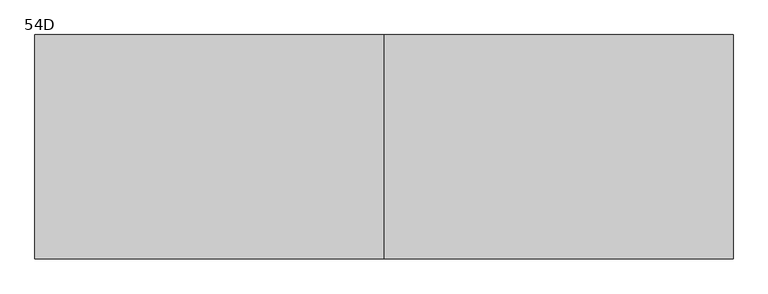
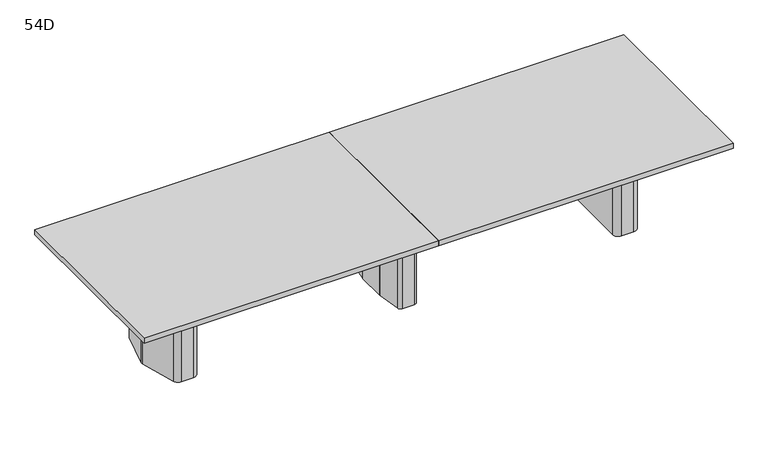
"""IFC4 building model written with IfcOpenShell, lengths in millimetres: furniture geometry, Coalesse_AM_Table_Conference_ETable2_Rectangular_14ft_ThreeBase : 54D."""

import ifcopenshell
import ifcopenshell.guid

model = None  # the IFC model being written
_history = None  # IfcOwnerHistory: only IFC2X3 demands one
_inside = {}  # id of a spatial element -> (the spatial element, [elements in it])
_under = {}  # id of a project, library or spatial element -> (it, [spatial elements below it])
_declared = {}  # id of a project -> (the project, [libraries it declares])
_typed = {}  # id of a type object -> (the type object, [elements of that type])
_made_of = {}  # id of a material, layer set ... -> (it, [elements and type objects made of it])


def new_model(schema):
    """Start an empty IFC model of exactly this schema.

    Asked for "IFC4X3", IfcOpenShell would pick the latest addendum, in which some entities
    have other attributes; the version numbers below select the first issue.
    IFC2X3 requires an IfcOwnerHistory on every rooted entity: one is made here for all.
    """
    global model, _history
    if schema == "IFC4X3":
        model = ifcopenshell.file(schema_version=(4, 3, 0, 0))
    else:
        model = ifcopenshell.file(schema=schema)
    _inside.clear()
    _under.clear()
    _declared.clear()
    _typed.clear()
    _made_of.clear()
    _history = None
    if model.schema == "IFC2X3":
        org = make("IfcOrganization", Name="unknown")
        user = make(
            "IfcPersonAndOrganization",
            ThePerson=make("IfcPerson", FamilyName="unknown"),
            TheOrganization=org,
        )
        app = make(
            "IfcApplication",
            ApplicationDeveloper=org,
            Version="unknown",
            ApplicationFullName="unknown",
            ApplicationIdentifier="unknown",
        )
        _history = make(
            "IfcOwnerHistory",
            OwningUser=user,
            OwningApplication=app,
            ChangeAction="ADDED",
            CreationDate=0,
        )
    return model


def make(cls, **values):
    """One entity of the class cls with the attributes given. An attribute that is None is left unset."""
    return model.create_entity(
        cls, **{name: value for name, value in values.items() if value is not None}
    )


def rooted(cls, **values):
    """An entity with a GlobalId (a new one), such as an element, a storey or a relation."""
    return make(cls, GlobalId=ifcopenshell.guid.new(), OwnerHistory=_history, **values)


def si_unit(unit_type, name, prefix=None):
    """IfcSIUnit, for example si_unit("LENGTHUNIT", "METRE", prefix="MILLI")."""
    return make("IfcSIUnit", UnitType=unit_type, Prefix=prefix, Name=name)


def assignment(units):
    """IfcUnitAssignment: the units of a project."""
    return None if units is None else make("IfcUnitAssignment", Units=units)


def point(xyz):
    """IfcCartesianPoint."""
    return None if xyz is None else make("IfcCartesianPoint", Coordinates=xyz)


def direction(xyz):
    """IfcDirection."""
    return None if xyz is None else make("IfcDirection", DirectionRatios=xyz)


def frame(location, z_axis=None, x_axis=None):
    """IfcAxis2Placement3D, a coordinate frame: its origin and axes. An axis left out is left unset."""
    return make(
        "IfcAxis2Placement3D",
        Location=point(location),
        Axis=direction(z_axis),
        RefDirection=direction(x_axis),
    )


def origin():
    """The frame at (0, 0, 0) with its axes left unset."""
    return frame((0.0, 0.0, 0.0))


def place(relative_to, where):
    """IfcLocalPlacement: puts the frame where relative to a parent placement (None: the world)."""
    return make(
        "IfcLocalPlacement", PlacementRelTo=relative_to, RelativePlacement=where
    )


def context(
    kind, dimensions, precision=None, world=None, true_north=None, identifier=None
):
    """IfcGeometricRepresentationContext, for example the 3D "Model" context."""
    return make(
        "IfcGeometricRepresentationContext",
        ContextIdentifier=identifier,
        ContextType=kind,
        CoordinateSpaceDimension=dimensions,
        Precision=precision,
        WorldCoordinateSystem=world,
        TrueNorth=true_north,
    )


def project(units=None, contexts=None):
    """IfcProject with its units and contexts."""
    return rooted(
        "IfcProject",
        Name="project",
        RepresentationContexts=contexts,
        UnitsInContext=assignment(units),
    )


def spatial(cls, under=None, at=None, **own):
    """A site, building, storey or space (cls), placed at a placement, below another one or the project."""
    s = rooted(cls, ObjectPlacement=at, **own)
    if under is not None:
        _under.setdefault(under.id(), (under, []))[1].append(s)
    return s


def polyline(points):
    """IfcPolyline through the points."""
    return make("IfcPolyline", Points=[point(p) for p in points])


def circle_curve(where, radius):
    """IfcCircle in the frame where."""
    return make("IfcCircle", Position=where, Radius=radius)


def outline(outer, holes=None, kind="AREA"):
    """IfcArbitraryClosedProfileDef: a profile drawn as a closed curve; with holes, ...WithVoids."""
    if holes is None:
        return make("IfcArbitraryClosedProfileDef", ProfileType=kind, OuterCurve=outer)
    return make(
        "IfcArbitraryProfileDefWithVoids",
        ProfileType=kind,
        OuterCurve=outer,
        InnerCurves=holes,
    )


def extrude(swept, where, along, depth):
    """IfcExtrudedAreaSolid: the profile swept, set in the frame where, extruded along a direction by depth."""
    return make(
        "IfcExtrudedAreaSolid",
        SweptArea=swept,
        Position=where,
        ExtrudedDirection=direction(along),
        Depth=depth,
    )


def shape(context_of_items, identifier, shape_type, items):
    """IfcShapeRepresentation: the items that make up one representation, for example the "Body"."""
    return make(
        "IfcShapeRepresentation",
        ContextOfItems=context_of_items,
        RepresentationIdentifier=identifier,
        RepresentationType=shape_type,
        Items=items,
    )


def source(mapping_origin, context_of_items, identifier, shape_type, items):
    """IfcRepresentationMap: a shape defined once, which mapped items show again and again."""
    return make(
        "IfcRepresentationMap",
        MappingOrigin=mapping_origin,
        MappedRepresentation=shape(context_of_items, identifier, shape_type, items),
    )


def transform(
    local_origin,
    x_axis=None,
    y_axis=None,
    z_axis=None,
    scale=None,
    scale2=None,
    scale3=None,
    uniform=True,
):
    """IfcCartesianTransformationOperator3D, or its non-uniform kind. x_axis, y_axis, z_axis: its Axis1, 2, 3."""
    if uniform:
        return make(
            "IfcCartesianTransformationOperator3D",
            Axis1=direction(x_axis),
            Axis2=direction(y_axis),
            LocalOrigin=point(local_origin),
            Scale=scale,
            Axis3=direction(z_axis),
        )
    return make(
        "IfcCartesianTransformationOperator3DnonUniform",
        Axis1=direction(x_axis),
        Axis2=direction(y_axis),
        LocalOrigin=point(local_origin),
        Scale=scale,
        Axis3=direction(z_axis),
        Scale2=scale2,
        Scale3=scale3,
    )


def mapped(mapping_source, mapping_target):
    """IfcMappedItem: shows the shape of a source again, moved by a transform."""
    return make(
        "IfcMappedItem", MappingSource=mapping_source, MappingTarget=mapping_target
    )


def made_of(thing, what):
    """Note that an element or type object is made of a material, layer set ...; save() writes the relation."""
    if what is not None:
        _made_of.setdefault(what.id(), (what, []))[1].append(thing)
    return thing


def element(
    cls,
    number,
    at=None,
    inside=None,
    cuts=None,
    type_object=None,
    material=None,
    context=None,
    identifier="Body",
    shape_type=None,
    held_by="IfcProductDefinitionShape",
    body=None,
    shapes=None,
    **own,
):
    """One element of the class cls, such as IfcWall. Its Tag is "e" and its number.

    at: its placement. inside: the storey or other place that contains it. cuts: it is an
    opening in that element (IfcRelVoidsElement). A single representation is given by context,
    identifier, shape_type and body (its items); several are given by shapes. held_by: the class
    of the entity that holds the representations. save() writes the other relations.
    """
    e = rooted(cls, Tag="e%d" % number, ObjectPlacement=at, **own)
    if body is not None:
        shapes = [shape(context, identifier, shape_type, body)]
    if shapes is not None:
        e.Representation = make(held_by, Representations=shapes)
    if inside is not None:
        _inside.setdefault(inside.id(), (inside, []))[1].append(e)
    if cuts is not None:
        rooted(
            "IfcRelVoidsElement", RelatingBuildingElement=cuts, RelatedOpeningElement=e
        )
    if type_object is not None:
        _typed.setdefault(type_object.id(), (type_object, []))[1].append(e)
    return made_of(e, material)


def aggregate(whole, parts):
    """IfcRelAggregates: a whole, such as a stair, and the parts it consists of."""
    return rooted("IfcRelAggregates", RelatingObject=whole, RelatedObjects=parts)


def save(model, path):
    """Write the relations noted so far, then the file.

    IfcRelAggregates (storeys below a building ...), IfcRelContainedInSpatialStructure (elements
    in a storey), IfcRelDefinesByType, IfcRelAssociatesMaterial and IfcRelDeclares: one each for
    every whole, place, type object, material and project.
    """
    for whole, parts in _under.values():
        aggregate(whole, parts)
    for where, things in _inside.values():
        rooted(
            "IfcRelContainedInSpatialStructure",
            RelatedElements=things,
            RelatingStructure=where,
        )
    for kind, things in _typed.values():
        rooted("IfcRelDefinesByType", RelatedObjects=things, RelatingType=kind)
    for what, things in _made_of.values():
        rooted("IfcRelAssociatesMaterial", RelatedObjects=things, RelatingMaterial=what)
    for by, libraries in _declared.values():
        rooted("IfcRelDeclares", RelatingContext=by, RelatedDefinitions=libraries)
    model.write(path)


def plane_surface(at):
    """IfcPlane: the flat surface through the origin of the frame at, square to its z axis."""
    return make("IfcPlane", Position=at)


def cylinder_surface(at, radius):
    """IfcCylindricalSurface: all points at the distance radius from the z axis of the frame at."""
    return make("IfcCylindricalSurface", Position=at, Radius=radius)


def revolved_surface(curve, axis_point, axis_direction):
    """IfcSurfaceOfRevolution: the curve turned about the line through axis_point along axis_direction."""
    return make(
        "IfcSurfaceOfRevolution",
        SweptCurve=make("IfcArbitraryOpenProfileDef", ProfileType="CURVE", Curve=curve),
        AxisPosition=make("IfcAxis1Placement", Location=point(axis_point), Axis=direction(axis_direction)),
    )


def advanced_brep(points, edges, surfaces, faces):
    """IfcAdvancedBrep: a solid bounded by faces that lie on surfaces and meet in shared edges.

    An edge is (start, end): straight between two places in points (the first is 0);
    or (start, end, curve); or (start, end, curve, False) where it runs against its curve.
    A face is (place in surfaces, loops), or (place, loops, False) where it looks against
    its surface's normal. A loop lists edges by number (the first is 1), with a minus sign
    where the edge is run from its end to its start. The first loop is the outer one.
    """
    corners = [point(p) for p in points]
    vertices = [make("IfcVertexPoint", VertexGeometry=c) for c in corners]
    made = []
    for start, end, *more in edges:
        made.append(
            make(
                "IfcEdgeCurve",
                EdgeStart=vertices[start],
                EdgeEnd=vertices[end],
                EdgeGeometry=more[0] if more else make("IfcPolyline", Points=[corners[start], corners[end]]),
                SameSense=more[1] if len(more) > 1 else True,
            )
        )
    hull = []
    for where, loops, *sense in faces:
        bounds = []
        for j, loop in enumerate(loops):
            ring = [make("IfcOrientedEdge", EdgeElement=made[abs(k) - 1], Orientation=k > 0) for k in loop]
            bounds.append(
                make(
                    "IfcFaceOuterBound" if j == 0 else "IfcFaceBound",
                    Bound=make("IfcEdgeLoop", EdgeList=ring),
                    Orientation=True,
                )
            )
        hull.append(make("IfcAdvancedFace", Bounds=bounds, FaceSurface=surfaces[where], SameSense=sense[0] if sense else True))
    return make("IfcAdvancedBrep", Outer=make("IfcClosedShell", CfsFaces=hull))


def furniture_54d_22ab1f9e(model_context):
    return source(origin(), model_context, "Body", "SolidModel", [
        advanced_brep(
        [(35.71875, 206.375, 3.175), (10.31875, 231.775, 3.175), (-10.31875, 231.775, 3.175), (-35.71875, 206.375, 3.175), (-35.71875, -206.375, 3.175), (-10.31875, -231.775, 3.175), (10.31875, -231.775, 3.175), (35.71875, -206.375, 3.175), (-61.11875, 206.375, 0.0), (-10.31875, 257.175, 0.0), (10.31875, 257.175, 0.0), (61.11875, 206.375, 0.0), (61.11875, -206.375, 0.0), (10.31875, -257.175, 0.0), (-10.31875, -257.175, 0.0), (-61.11875, -206.375, 0.0), (-61.11875, -206.375, 3.175), (-61.11875, 206.375, 3.175), (-10.31875, -257.175, 3.175), (10.31875, -257.175, 3.175), (61.11875, -206.375, 3.175), (61.11875, 206.375, 3.175), (10.31875, 257.175, 3.175), (-10.31875, 257.175, 3.175), (-92.6215974, 106.2976848, 698.5), (-92.86875, 102.7629613, 698.5), (-92.86875, -102.7629613, 698.5), (-92.6215974, -106.2976848, 698.5), (-67.7988375, -282.9347235, 698.5), (-42.6459902, -304.8, 698.5), (42.6459902, -304.8, 698.5), (67.7988375, -282.9347235, 698.5), (92.6215974, -106.2976848, 698.5), (92.86875, -102.7629613, 698.5), (92.86875, 102.7629613, 698.5), (92.6215974, 106.2976848, 698.5), (67.7988375, 282.9347235, 698.5), (42.6459902, 304.8, 698.5), (-42.6459902, 304.8, 698.5), (-67.7988375, 282.9347235, 698.5), (10.31875, 231.775, 698.5), (35.71875, 206.375, 698.5), (35.71875, -206.375, 698.5), (10.31875, -231.775, 698.5), (-10.31875, -231.775, 698.5), (-35.71875, -206.375, 698.5), (-35.71875, 206.375, 698.5), (-10.31875, 231.775, 698.5), (-92.6215974, 106.2976848, 3.175), (-67.7988375, 282.9347235, 3.175), (-42.6459902, 304.8, 3.175), (42.6459902, 304.8, 3.175), (67.7988375, 282.9347235, 3.175), (92.6215974, 106.2976848, 3.175), (92.86875, 102.7629613, 3.175), (92.86875, -102.7629613, 3.175), (92.6215974, -106.2976848, 3.175), (67.7988375, -282.9347235, 3.175), (42.6459902, -304.8, 3.175), (-42.6459902, -304.8, 3.175), (-67.7988375, -282.9347235, 3.175), (-92.6215974, -106.2976848, 3.175), (-92.86875, -102.7629613, 3.175), (-92.86875, 102.7629613, 3.175)],
        [
            (0, 1, circle_curve(frame((10.31875, 206.375, 3.175), z_axis=(0.0, 0.0, 1.0), x_axis=(1.0, 0.0, 0.0)), 25.4)),
            (1, 2),
            (2, 3, circle_curve(frame((-10.31875, 206.375, 3.175), z_axis=(0.0, 0.0, 1.0), x_axis=(1.0, 0.0, 0.0)), 25.4)),
            (3, 4),
            (4, 5, circle_curve(frame((-10.31875, -206.375, 3.175), z_axis=(0.0, 0.0, 1.0), x_axis=(1.0, 0.0, 0.0)), 25.4)),
            (5, 6),
            (6, 7, circle_curve(frame((10.31875, -206.375, 3.175), z_axis=(0.0, 0.0, 1.0), x_axis=(1.0, 0.0, 0.0)), 25.4)),
            (7, 0),
            (8, 9, circle_curve(frame((-10.31875, 206.375, 0.0), z_axis=(0.0, 0.0, -1.0), x_axis=(1.0, 0.0, 0.0)), 50.8)),
            (9, 10),
            (10, 11, circle_curve(frame((10.31875, 206.375, 0.0), z_axis=(0.0, 0.0, -1.0), x_axis=(1.0, 0.0, 0.0)), 50.8)),
            (11, 12),
            (12, 13, circle_curve(frame((10.31875, -206.375, 0.0), z_axis=(0.0, 0.0, -1.0), x_axis=(1.0, 0.0, 0.0)), 50.8)),
            (13, 14),
            (14, 15, circle_curve(frame((-10.31875, -206.375, 0.0), z_axis=(0.0, 0.0, -1.0), x_axis=(1.0, 0.0, 0.0)), 50.8)),
            (15, 8),
            (15, 16),
            (16, 17),
            (17, 8),
            (14, 18),
            (18, 16, circle_curve(frame((-10.31875, -206.375, 3.175), z_axis=(0.0, 0.0, -1.0), x_axis=(1.0, 0.0, 0.0)), 50.8)),
            (13, 19),
            (19, 18),
            (12, 20),
            (20, 19, circle_curve(frame((10.31875, -206.375, 3.175), z_axis=(0.0, 0.0, -1.0), x_axis=(1.0, 0.0, 0.0)), 50.8)),
            (11, 21),
            (21, 20),
            (10, 22),
            (22, 21, circle_curve(frame((10.31875, 206.375, 3.175), z_axis=(0.0, 0.0, -1.0), x_axis=(1.0, 0.0, 0.0)), 50.8)),
            (9, 23),
            (23, 22),
            (17, 23, circle_curve(frame((-10.31875, 206.375, 3.175), z_axis=(0.0, 0.0, -1.0), x_axis=(1.0, 0.0, 0.0)), 50.8)),
            (24, 25, circle_curve(frame((-67.46875, 102.7629613, 698.5), z_axis=(0.0, 0.0, 1.0), x_axis=(1.0, 0.0, 0.0)), 25.4)),
            (25, 26),
            (26, 27, circle_curve(frame((-67.46875, -102.7629613, 698.5), z_axis=(0.0, 0.0, 1.0), x_axis=(1.0, 0.0, 0.0)), 25.4)),
            (27, 28),
            (28, 29, circle_curve(frame((-42.6459902, -279.4, 698.5), z_axis=(0.0, 0.0, 1.0), x_axis=(1.0, 0.0, 0.0)), 25.4)),
            (29, 30),
            (30, 31, circle_curve(frame((42.6459902, -279.4, 698.5), z_axis=(0.0, 0.0, 1.0), x_axis=(1.0, 0.0, 0.0)), 25.4)),
            (31, 32),
            (32, 33, circle_curve(frame((67.46875, -102.7629613, 698.5), z_axis=(0.0, 0.0, 1.0), x_axis=(1.0, 0.0, 0.0)), 25.4)),
            (33, 34),
            (34, 35, circle_curve(frame((67.46875, 102.7629613, 698.5), z_axis=(0.0, 0.0, 1.0), x_axis=(1.0, 0.0, 0.0)), 25.4)),
            (35, 36),
            (36, 37, circle_curve(frame((42.6459902, 279.4, 698.5), z_axis=(0.0, 0.0, 1.0), x_axis=(1.0, 0.0, 0.0)), 25.4)),
            (37, 38),
            (38, 39, circle_curve(frame((-42.6459902, 279.4, 698.5), z_axis=(0.0, 0.0, 1.0), x_axis=(1.0, 0.0, 0.0)), 25.4)),
            (39, 24),
            (40, 41, circle_curve(frame((10.31875, 206.375, 698.5), z_axis=(0.0, 0.0, -1.0), x_axis=(1.0, 0.0, 0.0)), 25.4)),
            (41, 42),
            (42, 43, circle_curve(frame((10.31875, -206.375, 698.5), z_axis=(0.0, 0.0, -1.0), x_axis=(1.0, 0.0, 0.0)), 25.4)),
            (43, 44),
            (44, 45, circle_curve(frame((-10.31875, -206.375, 698.5), z_axis=(0.0, 0.0, -1.0), x_axis=(1.0, 0.0, 0.0)), 25.4)),
            (45, 46),
            (46, 47, circle_curve(frame((-10.31875, 206.375, 698.5), z_axis=(0.0, 0.0, -1.0), x_axis=(1.0, 0.0, 0.0)), 25.4)),
            (47, 40),
            (48, 49),
            (49, 50, circle_curve(frame((-42.6459902, 279.4, 3.175), z_axis=(0.0, 0.0, -1.0), x_axis=(1.0, 0.0, 0.0)), 25.4)),
            (50, 51),
            (51, 52, circle_curve(frame((42.6459902, 279.4, 3.175), z_axis=(0.0, 0.0, -1.0), x_axis=(1.0, 0.0, 0.0)), 25.4)),
            (52, 53),
            (53, 54, circle_curve(frame((67.46875, 102.7629613, 3.175), z_axis=(0.0, 0.0, -1.0), x_axis=(1.0, 0.0, 0.0)), 25.4)),
            (54, 55),
            (55, 56, circle_curve(frame((67.46875, -102.7629613, 3.175), z_axis=(0.0, 0.0, -1.0), x_axis=(1.0, 0.0, 0.0)), 25.4)),
            (56, 57),
            (57, 58, circle_curve(frame((42.6459902, -279.4, 3.175), z_axis=(0.0, 0.0, -1.0), x_axis=(1.0, 0.0, 0.0)), 25.4)),
            (58, 59),
            (59, 60, circle_curve(frame((-42.6459902, -279.4, 3.175), z_axis=(0.0, 0.0, -1.0), x_axis=(1.0, 0.0, 0.0)), 25.4)),
            (60, 61),
            (61, 62, circle_curve(frame((-67.46875, -102.7629613, 3.175), z_axis=(0.0, 0.0, -1.0), x_axis=(1.0, 0.0, 0.0)), 25.4)),
            (62, 63),
            (63, 48, circle_curve(frame((-67.46875, 102.7629613, 3.175), z_axis=(0.0, 0.0, -1.0), x_axis=(1.0, 0.0, 0.0)), 25.4)),
            (24, 48),
            (63, 25),
            (62, 26),
            (61, 27),
            (60, 28),
            (59, 29),
            (58, 30),
            (57, 31),
            (56, 32),
            (55, 33),
            (54, 34),
            (53, 35),
            (52, 36),
            (51, 37),
            (50, 38),
            (49, 39),
            (40, 1),
            (0, 41),
            (7, 42),
            (6, 43),
            (5, 44),
            (4, 45),
            (3, 46),
            (2, 47),
        ],
        [
            plane_surface(frame((-61.11875, -206.375, 3.175), z_axis=(0.0, 0.0, 1.0), x_axis=(0.0, -1.0, 0.0))),
            plane_surface(frame((-61.11875, -206.375, 0.0), z_axis=(0.0, 0.0, -1.0), x_axis=(0.0, 1.0, 0.0))),
            plane_surface(frame((-61.11875, 206.375, 3.175), z_axis=(-1.0, 0.0, 0.0), x_axis=(0.0, 0.0, -1.0))),
            cylinder_surface(frame((-10.31875, -206.375, 0.0), z_axis=(0.0, 0.0, 1.0), x_axis=(1.0, 0.0, 0.0)), 50.8),
            plane_surface(frame((-10.31875, -257.175, 3.175), z_axis=(0.0, -1.0, 0.0), x_axis=(0.0, 0.0, -1.0))),
            cylinder_surface(frame((10.31875, -206.375, 0.0), z_axis=(0.0, 0.0, 1.0), x_axis=(1.0, 0.0, 0.0)), 50.8),
            plane_surface(frame((61.11875, -206.375, 3.175), z_axis=(1.0, 0.0, 0.0), x_axis=(0.0, 0.0, -1.0))),
            cylinder_surface(frame((10.31875, 206.375, 0.0), z_axis=(0.0, 0.0, 1.0), x_axis=(1.0, 0.0, 0.0)), 50.8),
            plane_surface(frame((10.31875, 257.175, 3.175), z_axis=(0.0, 1.0, 0.0), x_axis=(0.0, 0.0, -1.0))),
            cylinder_surface(frame((-10.31875, 206.375, 0.0), z_axis=(0.0, 0.0, 1.0), x_axis=(1.0, 0.0, 0.0)), 50.8),
            plane_surface(frame((-42.06875, 102.7629613, 698.5), z_axis=(0.0, 0.0, 1.0), x_axis=(0.0, 1.0, 0.0))),
            plane_surface(frame((-42.06875, 102.7629613, 3.175), z_axis=(0.0, 0.0, -1.0), x_axis=(0.0, -1.0, 0.0))),
            cylinder_surface(frame((-67.46875, 102.7629613, 3.175), z_axis=(0.0, 0.0, 1.0), x_axis=(1.0, 0.0, 0.0)), 25.4),
            plane_surface(frame((-92.86875, 102.7629613, 698.5), z_axis=(-1.0, 0.0, 0.0), x_axis=(0.0, 0.0, -1.0))),
            cylinder_surface(frame((-67.46875, -102.7629613, 3.175), z_axis=(0.0, 0.0, 1.0), x_axis=(1.0, 0.0, 0.0)), 25.4),
            plane_surface(frame((-92.6215974, -106.2976848, 698.5), z_axis=(-0.9902695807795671, -0.13916234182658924, 0.0), x_axis=(0.0, 0.0, -1.0))),
            cylinder_surface(frame((-42.6459902, -279.4, 3.175), z_axis=(0.0, 0.0, 1.0), x_axis=(1.0, 0.0, 0.0)), 25.4),
            plane_surface(frame((-42.6459902, -304.8, 698.5), z_axis=(0.0, -1.0, 0.0), x_axis=(0.0, 0.0, -1.0))),
            cylinder_surface(frame((42.6459902, -279.4, 3.175), z_axis=(0.0, 0.0, 1.0), x_axis=(1.0, 0.0, 0.0)), 25.4),
            plane_surface(frame((67.7988375, -282.9347235, 698.5), z_axis=(0.9902695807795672, -0.13916234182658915, 0.0), x_axis=(0.0, 0.0, -1.0))),
            cylinder_surface(frame((67.46875, -102.7629613, 3.175), z_axis=(0.0, 0.0, 1.0), x_axis=(1.0, 0.0, 0.0)), 25.4),
            plane_surface(frame((92.86875, -102.7629613, 698.5), z_axis=(1.0, 0.0, 0.0), x_axis=(0.0, 0.0, -1.0))),
            cylinder_surface(frame((67.46875, 102.7629613, 3.175), z_axis=(0.0, 0.0, 1.0), x_axis=(1.0, 0.0, 0.0)), 25.4),
            plane_surface(frame((92.6215974, 106.2976848, 698.5), z_axis=(0.9902695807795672, 0.1391623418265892, 0.0), x_axis=(0.0, 0.0, -1.0))),
            cylinder_surface(frame((42.6459902, 279.4, 3.175), z_axis=(0.0, 0.0, 1.0), x_axis=(1.0, 0.0, 0.0)), 25.4),
            plane_surface(frame((42.6459902, 304.8, 698.5), z_axis=(0.0, 1.0, 0.0), x_axis=(0.0, 0.0, -1.0))),
            cylinder_surface(frame((-42.6459902, 279.4, 3.175), z_axis=(0.0, 0.0, 1.0), x_axis=(1.0, 0.0, 0.0)), 25.4),
            plane_surface(frame((-67.7988375, 282.9347235, 698.5), z_axis=(-0.9902695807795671, 0.13916234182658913, 0.0), x_axis=(0.0, 0.0, -1.0))),
            revolved_surface(polyline([(35.71875, 206.375, 3.175), (35.71875, 206.375, 698.5)]), (10.31875, 206.375, 0.0), (0.0, 0.0, -1.0)),
            plane_surface(frame((35.71875, 206.375, 698.5), z_axis=(-1.0, 0.0, 0.0), x_axis=(0.0, 0.0, -1.0))),
            revolved_surface(polyline([(35.71875, -206.375, 3.175), (35.71875, -206.375, 698.5)]), (10.31875, -206.375, 0.0), (0.0, 0.0, -1.0)),
            plane_surface(frame((10.31875, -231.775, 698.5), z_axis=(0.0, 1.0, 0.0), x_axis=(0.0, 0.0, -1.0))),
            revolved_surface(polyline([(15.081249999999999, -206.375, 3.175), (15.081249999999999, -206.375, 698.5)]), (-10.31875, -206.375, 0.0), (0.0, 0.0, -1.0)),
            plane_surface(frame((-35.71875, -206.375, 698.5), z_axis=(1.0, 0.0, 0.0), x_axis=(0.0, 0.0, -1.0))),
            revolved_surface(polyline([(15.081249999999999, 206.375, 3.175), (15.081249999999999, 206.375, 698.5)]), (-10.31875, 206.375, 0.0), (0.0, 0.0, -1.0)),
            plane_surface(frame((-10.31875, 231.775, 698.5), z_axis=(0.0, -1.0, 0.0), x_axis=(0.0, 0.0, -1.0))),
        ],
        [
            (0, [[1, 2, 3, 4, 5, 6, 7, 8]]),
            (1, [[9, 10, 11, 12, 13, 14, 15, 16]]),
            (2, [[-16, 17, 18, 19]]),
            (3, [[-15, 20, 21, -17]]),
            (4, [[-14, 22, 23, -20]]),
            (5, [[-13, 24, 25, -22]]),
            (6, [[-12, 26, 27, -24]]),
            (7, [[-11, 28, 29, -26]]),
            (8, [[-10, 30, 31, -28]]),
            (9, [[-9, -19, 32, -30]]),
            (10, [[33, 34, 35, 36, 37, 38, 39, 40, 41, 42, 43, 44, 45, 46, 47, 48], [49, 50, 51, 52, 53, 54, 55, 56]]),
            (11, [[57, 58, 59, 60, 61, 62, 63, 64, 65, 66, 67, 68, 69, 70, 71, 72], [-18, -21, -23, -25, -27, -29, -31, -32]]),
            (12, [[-33, 73, -72, 74]]),
            (13, [[-34, -74, -71, 75]]),
            (14, [[-35, -75, -70, 76]]),
            (15, [[-36, -76, -69, 77]]),
            (16, [[-37, -77, -68, 78]]),
            (17, [[-38, -78, -67, 79]]),
            (18, [[-39, -79, -66, 80]]),
            (19, [[-40, -80, -65, 81]]),
            (20, [[-41, -81, -64, 82]]),
            (21, [[-42, -82, -63, 83]]),
            (22, [[-43, -83, -62, 84]]),
            (23, [[-44, -84, -61, 85]]),
            (24, [[-45, -85, -60, 86]]),
            (25, [[-46, -86, -59, 87]]),
            (26, [[-47, -87, -58, 88]]),
            (27, [[-48, -88, -57, -73]]),
            (28, [[-49, 89, -1, 90]]),
            (29, [[-50, -90, -8, 91]]),
            (30, [[-51, -91, -7, 92]]),
            (31, [[-52, -92, -6, 93]]),
            (32, [[-53, -93, -5, 94]]),
            (33, [[-54, -94, -4, 95]]),
            (34, [[-55, -95, -3, 96]]),
            (35, [[-56, -96, -2, -89]]),
        ],
    ),
        advanced_brep(
        [(1675.024548, 274.2093613, 698.5), (1635.1579246, 304.8, 698.5), (1546.225, 304.8, 698.5), (1504.95, 263.525, 698.5), (1504.95, -263.525, 698.5), (1546.225, -304.8, 698.5), (1635.1579246, -304.8, 698.5), (1675.024548, -274.2093613, 698.5), (1745.6503901, -10.6333708, 698.5), (1745.6503901, 10.6333708, 698.5), (1543.05, -206.375, 698.5), (1543.05, 206.375, 698.5), (1568.45, 231.775, 698.5), (1627.4608422, 231.775, 698.5), (1651.995338, 212.9490792, 698.5), (1690.6875, 68.54974, 698.5), (1690.6875, -68.54974, 698.5), (1651.995338, -212.9490792, 698.5), (1627.4608422, -231.775, 698.5), (1568.45, -231.775, 698.5), (1675.024548, 274.2093613, 3.175), (1745.6503901, 10.6333708, 3.175), (1745.6503901, -10.6333708, 3.175), (1675.024548, -274.2093613, 3.175), (1635.1579246, -304.8, 3.175), (1546.225, -304.8, 3.175), (1504.95, -263.525, 3.175), (1504.95, 263.525, 3.175), (1546.225, 304.8, 3.175), (1635.1579246, 304.8, 3.175), (1664.2625859, 216.2361187, 3.175), (1627.4608422, 244.475, 3.175), (1568.45, 244.475, 3.175), (1530.35, 206.375, 3.175), (1530.35, -206.375, 3.175), (1568.45, -244.475, 3.175), (1627.4608422, -244.475, 3.175), (1664.2625859, -216.2361187, 3.175), (1703.3875, -70.2217466, 3.175), (1703.3875, 70.2217466, 3.175), (1568.45, -231.775, 3.175), (1543.05, -206.375, 3.175), (1627.4608422, -231.775, 3.175), (1651.995338, -212.9490792, 3.175), (1690.6875, -68.54974, 3.175), (1690.6875, 68.54974, 3.175), (1651.995338, 212.9490792, 3.175), (1627.4608422, 231.775, 3.175), (1568.45, 231.775, 3.175), (1543.05, 206.375, 3.175), (1664.2625859, 216.2361187, 0.0), (1703.3875, 70.2217466, 0.0), (1703.3875, -70.2217466, 0.0), (1664.2625859, -216.2361187, 0.0), (1627.4608422, -244.475, 0.0), (1568.45, -244.475, 0.0), (1530.35, -206.375, 0.0), (1530.35, 206.375, 0.0), (1568.45, 244.475, 0.0), (1627.4608422, 244.475, 0.0)],
        [
            (0, 1, circle_curve(frame((1635.1579246, 263.5270004, 698.5), z_axis=(0.0, 0.0, 1.0), x_axis=(-1.0, 0.0, 0.0)), 41.2729996)),
            (1, 2),
            (2, 3, circle_curve(frame((1546.225, 263.525, 698.5), z_axis=(0.0, 0.0, 1.0), x_axis=(-1.0, 0.0, 0.0)), 41.275)),
            (3, 4),
            (4, 5, circle_curve(frame((1546.225, -263.525, 698.5), z_axis=(0.0, 0.0, 1.0), x_axis=(-1.0, 0.0, 0.0)), 41.275)),
            (5, 6),
            (6, 7, circle_curve(frame((1635.1579246, -263.5270004, 698.5), z_axis=(0.0, 0.0, 1.0), x_axis=(-1.0, 0.0, 0.0)), 41.2729996)),
            (7, 8),
            (8, 9, circle_curve(frame((1705.9665979, 0.0, 698.5), z_axis=(0.0, 0.0, 1.0), x_axis=(-1.0, 0.0, 0.0)), 41.0837187)),
            (9, 0),
            (10, 11),
            (11, 12, circle_curve(frame((1568.45, 206.375, 698.5), z_axis=(0.0, 0.0, -1.0), x_axis=(-1.0, 0.0, 0.0)), 25.4)),
            (12, 13),
            (13, 14, circle_curve(frame((1627.4608422, 206.375, 698.5), z_axis=(0.0, 0.0, -1.0), x_axis=(-1.0, 0.0, 0.0)), 25.4)),
            (14, 15),
            (15, 16),
            (16, 17),
            (17, 18, circle_curve(frame((1627.4608422, -206.375, 698.5), z_axis=(0.0, 0.0, -1.0), x_axis=(-1.0, 0.0, 0.0)), 25.4)),
            (18, 19),
            (19, 10, circle_curve(frame((1568.45, -206.375, 698.5), z_axis=(0.0, 0.0, -1.0), x_axis=(-1.0, 0.0, 0.0)), 25.4)),
            (20, 21),
            (21, 22, circle_curve(frame((1705.9665979, 0.0, 3.175), z_axis=(0.0, 0.0, -1.0), x_axis=(-1.0, 0.0, 0.0)), 41.0837187)),
            (22, 23),
            (23, 24, circle_curve(frame((1635.1579246, -263.5270004, 3.175), z_axis=(0.0, 0.0, -1.0), x_axis=(-1.0, 0.0, 0.0)), 41.2729996)),
            (24, 25),
            (25, 26, circle_curve(frame((1546.225, -263.525, 3.175), z_axis=(0.0, 0.0, -1.0), x_axis=(-1.0, 0.0, 0.0)), 41.275)),
            (26, 27),
            (27, 28, circle_curve(frame((1546.225, 263.525, 3.175), z_axis=(0.0, 0.0, -1.0), x_axis=(-1.0, 0.0, 0.0)), 41.275)),
            (28, 29),
            (29, 20, circle_curve(frame((1635.1579246, 263.5270004, 3.175), z_axis=(0.0, 0.0, -1.0), x_axis=(-1.0, 0.0, 0.0)), 41.2729996)),
            (30, 31, circle_curve(frame((1627.4608422, 206.375, 3.175), z_axis=(0.0, 0.0, 1.0), x_axis=(-1.0, 0.0, 0.0)), 38.1)),
            (31, 32),
            (32, 33, circle_curve(frame((1568.45, 206.375, 3.175), z_axis=(0.0, 0.0, 1.0), x_axis=(-1.0, 0.0, 0.0)), 38.1)),
            (33, 34),
            (34, 35, circle_curve(frame((1568.45, -206.375, 3.175), z_axis=(0.0, 0.0, 1.0), x_axis=(-1.0, 0.0, 0.0)), 38.1)),
            (35, 36),
            (36, 37, circle_curve(frame((1627.4608422, -206.375, 3.175), z_axis=(0.0, 0.0, 1.0), x_axis=(-1.0, 0.0, 0.0)), 38.1)),
            (37, 38),
            (38, 39),
            (39, 30),
            (9, 21),
            (20, 0),
            (8, 22),
            (7, 23),
            (6, 24),
            (5, 25),
            (4, 26),
            (3, 27),
            (2, 28),
            (1, 29),
            (19, 40),
            (40, 41, circle_curve(frame((1568.45, -206.375, 3.175), z_axis=(0.0, 0.0, -1.0), x_axis=(-1.0, 0.0, 0.0)), 25.4)),
            (41, 10),
            (18, 42),
            (42, 40),
            (17, 43),
            (43, 42, circle_curve(frame((1627.4608422, -206.375, 3.175), z_axis=(0.0, 0.0, -1.0), x_axis=(-1.0, 0.0, 0.0)), 25.4)),
            (16, 44),
            (44, 43),
            (15, 45),
            (45, 44),
            (14, 46),
            (46, 45),
            (13, 47),
            (47, 46, circle_curve(frame((1627.4608422, 206.375, 3.175), z_axis=(0.0, 0.0, -1.0), x_axis=(-1.0, 0.0, 0.0)), 25.4)),
            (12, 48),
            (48, 47),
            (11, 49),
            (49, 48, circle_curve(frame((1568.45, 206.375, 3.175), z_axis=(0.0, 0.0, -1.0), x_axis=(-1.0, 0.0, 0.0)), 25.4)),
            (41, 49),
            (50, 51),
            (51, 52),
            (52, 53),
            (53, 54, circle_curve(frame((1627.4608422, -206.375, 0.0), z_axis=(0.0, 0.0, -1.0), x_axis=(-1.0, 0.0, 0.0)), 38.1)),
            (54, 55),
            (55, 56, circle_curve(frame((1568.45, -206.375, 0.0), z_axis=(0.0, 0.0, -1.0), x_axis=(-1.0, 0.0, 0.0)), 38.1)),
            (56, 57),
            (57, 58, circle_curve(frame((1568.45, 206.375, 0.0), z_axis=(0.0, 0.0, -1.0), x_axis=(-1.0, 0.0, 0.0)), 38.1)),
            (58, 59),
            (59, 50, circle_curve(frame((1627.4608422, 206.375, 0.0), z_axis=(0.0, 0.0, -1.0), x_axis=(-1.0, 0.0, 0.0)), 38.1)),
            (50, 30),
            (39, 51),
            (38, 52),
            (37, 53),
            (36, 54),
            (35, 55),
            (34, 56),
            (33, 57),
            (32, 58),
            (31, 59),
        ],
        [
            plane_surface(frame((1745.6374275, 10.6817473, 698.5), z_axis=(0.0, 0.0, 1.0000000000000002), x_axis=(0.25882201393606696, -0.9659250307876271, 0.0))),
            plane_surface(frame((1745.6374275, 10.6817473, 3.175), z_axis=(0.0, 0.0, -1.0000000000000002), x_axis=(-0.25882201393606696, 0.9659250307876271, 0.0))),
            plane_surface(frame((1675.024548, 274.2093613, 698.5), z_axis=(0.9659250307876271, 0.25882201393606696, 0.0), x_axis=(0.0, 0.0, -1.0))),
            cylinder_surface(frame((1705.9665979, 0.0, 3.175), z_axis=(0.0, 0.0, 1.0), x_axis=(-1.0, 0.0, 0.0)), 41.0837187),
            plane_surface(frame((1745.6503901, -10.6333708, 698.5), z_axis=(0.9659250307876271, -0.2588220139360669, 0.0), x_axis=(0.0, 0.0, -1.0))),
            cylinder_surface(frame((1635.1579246, -263.5270004, 3.175), z_axis=(0.0, 0.0, 1.0), x_axis=(-1.0, 0.0, 0.0)), 41.2729996),
            plane_surface(frame((1635.1579246, -304.8, 698.5), z_axis=(0.0, -1.0, 0.0), x_axis=(0.0, 0.0, -1.0))),
            cylinder_surface(frame((1546.225, -263.525, 3.175), z_axis=(0.0, 0.0, 1.0), x_axis=(-1.0, 0.0, 0.0)), 41.275),
            plane_surface(frame((1504.95, -263.525, 698.5), z_axis=(-1.0, 0.0, 0.0), x_axis=(0.0, 0.0, -1.0))),
            cylinder_surface(frame((1546.225, 263.525, 3.175), z_axis=(0.0, 0.0, 1.0), x_axis=(-1.0, 0.0, 0.0)), 41.275),
            plane_surface(frame((1546.225, 304.8, 698.5), z_axis=(0.0, 1.0, 0.0), x_axis=(0.0, 0.0, -1.0))),
            cylinder_surface(frame((1635.1579246, 263.5270004, 3.175), z_axis=(0.0, 0.0, 1.0), x_axis=(-1.0, 0.0, 0.0)), 41.2729996),
            revolved_surface(polyline([(1543.05, -206.375, 3.175), (1543.05, -206.375, 698.5)]), (1568.45, -206.375, 0.0), (0.0, 0.0, -1.0)),
            plane_surface(frame((1568.45, -231.775, 698.5), z_axis=(0.0, 1.0, 0.0), x_axis=(0.0, 0.0, -1.0))),
            revolved_surface(polyline([(1602.0608421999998, -206.375, 3.175), (1602.0608421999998, -206.375, 698.5)]), (1627.4608422, -206.375, 0.0), (0.0, 0.0, -1.0)),
            plane_surface(frame((1651.995338, -212.9490792, 698.5), z_axis=(-0.9659250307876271, 0.2588220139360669, 0.0), x_axis=(0.0, 0.0, -1.0))),
            plane_surface(frame((1690.6875, -68.54974, 698.5), z_axis=(-1.0, 0.0, 0.0), x_axis=(0.0, 0.0, -1.0))),
            plane_surface(frame((1690.6875, 68.54974, 698.5), z_axis=(-0.9659250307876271, -0.25882201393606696, 0.0), x_axis=(0.0, 0.0, -1.0))),
            revolved_surface(polyline([(1602.0608421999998, 206.375, 3.175), (1602.0608421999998, 206.375, 698.5)]), (1627.4608422, 206.375, 0.0), (0.0, 0.0, -1.0)),
            plane_surface(frame((1627.4608422, 231.775, 698.5), z_axis=(0.0, -1.0, 0.0), x_axis=(0.0, 0.0, -1.0))),
            revolved_surface(polyline([(1543.05, 206.375, 3.175), (1543.05, 206.375, 698.5)]), (1568.45, 206.375, 0.0), (0.0, 0.0, -1.0)),
            plane_surface(frame((1543.05, 206.375, 698.5), z_axis=(1.0, 0.0, 0.0), x_axis=(0.0, 0.0, -1.0))),
            plane_surface(frame((1702.9547479, 71.8367796, 3.175), z_axis=(0.0, 0.0, 1.0), x_axis=(0.25882201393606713, -0.965925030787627, 0.0))),
            plane_surface(frame((1702.9547479, 71.8367796, 0.0), z_axis=(0.0, 0.0, -1.0), x_axis=(-0.25882201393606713, 0.965925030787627, 0.0))),
            plane_surface(frame((1664.2625859, 216.2361187, 3.175), z_axis=(0.965925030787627, 0.25882201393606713, 0.0), x_axis=(0.0, 0.0, -1.0))),
            plane_surface(frame((1703.3875, 70.2217466, 3.175), z_axis=(1.0, 0.0, 0.0), x_axis=(0.0, 0.0, -1.0))),
            plane_surface(frame((1703.3875, -70.2217466, 3.175), z_axis=(0.9659250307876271, -0.2588220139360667, 0.0), x_axis=(0.0, 0.0, -1.0))),
            cylinder_surface(frame((1627.4608422, -206.375, 0.0), z_axis=(0.0, 0.0, 1.0), x_axis=(-1.0, 0.0, 0.0)), 38.1),
            plane_surface(frame((1627.4608422, -244.475, 3.175), z_axis=(0.0, -1.0, 0.0), x_axis=(0.0, 0.0, -1.0))),
            cylinder_surface(frame((1568.45, -206.375, 0.0), z_axis=(0.0, 0.0, 1.0), x_axis=(-1.0, 0.0, 0.0)), 38.1),
            plane_surface(frame((1530.35, -206.375, 3.175), z_axis=(-1.0, 0.0, 0.0), x_axis=(0.0, 0.0, -1.0))),
            cylinder_surface(frame((1568.45, 206.375, 0.0), z_axis=(0.0, 0.0, 1.0), x_axis=(-1.0, 0.0, 0.0)), 38.1),
            plane_surface(frame((1568.45, 244.475, 3.175), z_axis=(0.0, 1.0, 0.0), x_axis=(0.0, 0.0, -1.0))),
            cylinder_surface(frame((1627.4608422, 206.375, 0.0), z_axis=(0.0, 0.0, 1.0), x_axis=(-1.0, 0.0, 0.0)), 38.1),
        ],
        [
            (0, [[1, 2, 3, 4, 5, 6, 7, 8, 9, 10], [11, 12, 13, 14, 15, 16, 17, 18, 19, 20]]),
            (1, [[21, 22, 23, 24, 25, 26, 27, 28, 29, 30], [31, 32, 33, 34, 35, 36, 37, 38, 39, 40]]),
            (2, [[41, -21, 42, -10]]),
            (3, [[43, -22, -41, -9]]),
            (4, [[44, -23, -43, -8]]),
            (5, [[45, -24, -44, -7]]),
            (6, [[46, -25, -45, -6]]),
            (7, [[47, -26, -46, -5]]),
            (8, [[48, -27, -47, -4]]),
            (9, [[49, -28, -48, -3]]),
            (10, [[50, -29, -49, -2]]),
            (11, [[-42, -30, -50, -1]]),
            (12, [[51, 52, 53, -20]]),
            (13, [[54, 55, -51, -19]]),
            (14, [[56, 57, -54, -18]]),
            (15, [[58, 59, -56, -17]]),
            (16, [[60, 61, -58, -16]]),
            (17, [[62, 63, -60, -15]]),
            (18, [[64, 65, -62, -14]]),
            (19, [[66, 67, -64, -13]]),
            (20, [[68, 69, -66, -12]]),
            (21, [[-53, 70, -68, -11]]),
            (22, [[-55, -57, -59, -61, -63, -65, -67, -69, -70, -52]]),
            (23, [[71, 72, 73, 74, 75, 76, 77, 78, 79, 80]]),
            (24, [[81, -40, 82, -71]]),
            (25, [[-82, -39, 83, -72]]),
            (26, [[-83, -38, 84, -73]]),
            (27, [[-84, -37, 85, -74]]),
            (28, [[-85, -36, 86, -75]]),
            (29, [[-86, -35, 87, -76]]),
            (30, [[-87, -34, 88, -77]]),
            (31, [[-88, -33, 89, -78]]),
            (32, [[-89, -32, 90, -79]]),
            (33, [[-90, -31, -81, -80]]),
        ],
    ),
        advanced_brep(
        [(-1686.137048, 274.2093613, 698.5), (-1756.7628901, 10.6333708, 698.5), (-1756.7628901, -10.6333708, 698.5), (-1686.137048, -274.2093613, 698.5), (-1646.2704246, -304.8, 698.5), (-1557.3375, -304.8, 698.5), (-1516.0625, -263.525, 698.5), (-1516.0625, 263.525, 698.5), (-1557.3375, 304.8, 698.5), (-1646.2704246, 304.8, 698.5), (-1554.1625, -206.375, 698.5), (-1579.5625, -231.775, 698.5), (-1638.5733422, -231.775, 698.5), (-1663.107838, -212.9490792, 698.5), (-1701.8, -68.54974, 698.5), (-1701.8, 68.54974, 698.5), (-1663.107838, 212.9490792, 698.5), (-1638.5733422, 231.775, 698.5), (-1579.5625, 231.775, 698.5), (-1554.1625, 206.375, 698.5), (-1686.137048, 274.2093613, 3.175), (-1646.2704246, 304.8, 3.175), (-1557.3375, 304.8, 3.175), (-1516.0625, 263.525, 3.175), (-1516.0625, -263.525, 3.175), (-1557.3375, -304.8, 3.175), (-1646.2704246, -304.8, 3.175), (-1686.137048, -274.2093613, 3.175), (-1756.7628901, -10.6333708, 3.175), (-1756.7628901, 10.6333708, 3.175), (-1675.3750859, 216.2361187, 3.175), (-1714.5, 70.2217466, 3.175), (-1714.5, -70.2217466, 3.175), (-1675.3750859, -216.2361187, 3.175), (-1638.5733422, -244.475, 3.175), (-1579.5625, -244.475, 3.175), (-1541.4625, -206.375, 3.175), (-1541.4625, 206.375, 3.175), (-1579.5625, 244.475, 3.175), (-1638.5733422, 244.475, 3.175), (-1554.1625, -206.375, 3.175), (-1579.5625, -231.775, 3.175), (-1638.5733422, -231.775, 3.175), (-1663.107838, -212.9490792, 3.175), (-1701.8, -68.54974, 3.175), (-1701.8, 68.54974, 3.175), (-1663.107838, 212.9490792, 3.175), (-1638.5733422, 231.775, 3.175), (-1579.5625, 231.775, 3.175), (-1554.1625, 206.375, 3.175), (-1675.3750859, 216.2361187, 0.0), (-1638.5733422, 244.475, 0.0), (-1579.5625, 244.475, 0.0), (-1541.4625, 206.375, 0.0), (-1541.4625, -206.375, 0.0), (-1579.5625, -244.475, 0.0), (-1638.5733422, -244.475, 0.0), (-1675.3750859, -216.2361187, 0.0), (-1714.5, -70.2217466, 0.0), (-1714.5, 70.2217466, 0.0)],
        [
            (0, 1),
            (1, 2, circle_curve(frame((-1717.0790979, 0.0, 698.5), z_axis=(0.0, 0.0, 1.0), x_axis=(1.0, 0.0, 0.0)), 41.0837187)),
            (2, 3),
            (3, 4, circle_curve(frame((-1646.2704246, -263.5270004, 698.5), z_axis=(0.0, 0.0, 1.0), x_axis=(1.0, 0.0, 0.0)), 41.2729996)),
            (4, 5),
            (5, 6, circle_curve(frame((-1557.3375, -263.525, 698.5), z_axis=(0.0, 0.0, 1.0), x_axis=(1.0, 0.0, 0.0)), 41.275)),
            (6, 7),
            (7, 8, circle_curve(frame((-1557.3375, 263.525, 698.5), z_axis=(0.0, 0.0, 1.0), x_axis=(1.0, 0.0, 0.0)), 41.275)),
            (8, 9),
            (9, 0, circle_curve(frame((-1646.2704246, 263.5270004, 698.5), z_axis=(0.0, 0.0, 1.0), x_axis=(1.0, 0.0, 0.0)), 41.2729996)),
            (10, 11, circle_curve(frame((-1579.5625, -206.375, 698.5), z_axis=(0.0, 0.0, -1.0), x_axis=(1.0, 0.0, 0.0)), 25.4)),
            (11, 12),
            (12, 13, circle_curve(frame((-1638.5733422, -206.375, 698.5), z_axis=(0.0, 0.0, -1.0), x_axis=(1.0, 0.0, 0.0)), 25.4)),
            (13, 14),
            (14, 15),
            (15, 16),
            (16, 17, circle_curve(frame((-1638.5733422, 206.375, 698.5), z_axis=(0.0, 0.0, -1.0), x_axis=(1.0, 0.0, 0.0)), 25.4)),
            (17, 18),
            (18, 19, circle_curve(frame((-1579.5625, 206.375, 698.5), z_axis=(0.0, 0.0, -1.0), x_axis=(1.0, 0.0, 0.0)), 25.4)),
            (19, 10),
            (20, 21, circle_curve(frame((-1646.2704246, 263.5270004, 3.175), z_axis=(0.0, 0.0, -1.0), x_axis=(1.0, 0.0, 0.0)), 41.2729996)),
            (21, 22),
            (22, 23, circle_curve(frame((-1557.3375, 263.525, 3.175), z_axis=(0.0, 0.0, -1.0), x_axis=(1.0, 0.0, 0.0)), 41.275)),
            (23, 24),
            (24, 25, circle_curve(frame((-1557.3375, -263.525, 3.175), z_axis=(0.0, 0.0, -1.0), x_axis=(1.0, 0.0, 0.0)), 41.275)),
            (25, 26),
            (26, 27, circle_curve(frame((-1646.2704246, -263.5270004, 3.175), z_axis=(0.0, 0.0, -1.0), x_axis=(1.0, 0.0, 0.0)), 41.2729996)),
            (27, 28),
            (28, 29, circle_curve(frame((-1717.0790979, 0.0, 3.175), z_axis=(0.0, 0.0, -1.0), x_axis=(1.0, 0.0, 0.0)), 41.0837187)),
            (29, 20),
            (30, 31),
            (31, 32),
            (32, 33),
            (33, 34, circle_curve(frame((-1638.5733422, -206.375, 3.175), z_axis=(0.0, 0.0, 1.0), x_axis=(1.0, 0.0, 0.0)), 38.1)),
            (34, 35),
            (35, 36, circle_curve(frame((-1579.5625, -206.375, 3.175), z_axis=(0.0, 0.0, 1.0), x_axis=(1.0, 0.0, 0.0)), 38.1)),
            (36, 37),
            (37, 38, circle_curve(frame((-1579.5625, 206.375, 3.175), z_axis=(0.0, 0.0, 1.0), x_axis=(1.0, 0.0, 0.0)), 38.1)),
            (38, 39),
            (39, 30, circle_curve(frame((-1638.5733422, 206.375, 3.175), z_axis=(0.0, 0.0, 1.0), x_axis=(1.0, 0.0, 0.0)), 38.1)),
            (0, 20),
            (29, 1),
            (28, 2),
            (27, 3),
            (26, 4),
            (25, 5),
            (24, 6),
            (23, 7),
            (22, 8),
            (21, 9),
            (10, 40),
            (40, 41, circle_curve(frame((-1579.5625, -206.375, 3.175), z_axis=(0.0, 0.0, -1.0), x_axis=(1.0, 0.0, 0.0)), 25.4)),
            (41, 11),
            (41, 42),
            (42, 12),
            (42, 43, circle_curve(frame((-1638.5733422, -206.375, 3.175), z_axis=(0.0, 0.0, -1.0), x_axis=(1.0, 0.0, 0.0)), 25.4)),
            (43, 13),
            (43, 44),
            (44, 14),
            (44, 45),
            (45, 15),
            (45, 46),
            (46, 16),
            (46, 47, circle_curve(frame((-1638.5733422, 206.375, 3.175), z_axis=(0.0, 0.0, -1.0), x_axis=(1.0, 0.0, 0.0)), 25.4)),
            (47, 17),
            (47, 48),
            (48, 18),
            (48, 49, circle_curve(frame((-1579.5625, 206.375, 3.175), z_axis=(0.0, 0.0, -1.0), x_axis=(1.0, 0.0, 0.0)), 25.4)),
            (49, 19),
            (49, 40),
            (50, 51, circle_curve(frame((-1638.5733422, 206.375, 0.0), z_axis=(0.0, 0.0, -1.0), x_axis=(1.0, 0.0, 0.0)), 38.1)),
            (51, 52),
            (52, 53, circle_curve(frame((-1579.5625, 206.375, 0.0), z_axis=(0.0, 0.0, -1.0), x_axis=(1.0, 0.0, 0.0)), 38.1)),
            (53, 54),
            (54, 55, circle_curve(frame((-1579.5625, -206.375, 0.0), z_axis=(0.0, 0.0, -1.0), x_axis=(1.0, 0.0, 0.0)), 38.1)),
            (55, 56),
            (56, 57, circle_curve(frame((-1638.5733422, -206.375, 0.0), z_axis=(0.0, 0.0, -1.0), x_axis=(1.0, 0.0, 0.0)), 38.1)),
            (57, 58),
            (58, 59),
            (59, 50),
            (59, 31),
            (30, 50),
            (58, 32),
            (57, 33),
            (56, 34),
            (55, 35),
            (54, 36),
            (53, 37),
            (52, 38),
            (51, 39),
        ],
        [
            plane_surface(frame((-1756.7499275, 10.6817473, 698.5), z_axis=(0.0, 0.0, 1.0000000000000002), x_axis=(-0.25882201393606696, -0.9659250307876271, 0.0))),
            plane_surface(frame((-1756.7499275, 10.6817473, 3.175), z_axis=(0.0, 0.0, -1.0000000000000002), x_axis=(0.25882201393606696, 0.9659250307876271, 0.0))),
            plane_surface(frame((-1686.137048, 274.2093613, 698.5), z_axis=(-0.9659250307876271, 0.25882201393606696, 0.0), x_axis=(0.0, 0.0, -1.0))),
            cylinder_surface(frame((-1717.0790979, 0.0, 3.175), z_axis=(0.0, 0.0, 1.0), x_axis=(1.0, 0.0, 0.0)), 41.0837187),
            plane_surface(frame((-1756.7628901, -10.6333708, 698.5), z_axis=(-0.9659250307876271, -0.2588220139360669, 0.0), x_axis=(0.0, 0.0, -1.0))),
            cylinder_surface(frame((-1646.2704246, -263.5270004, 3.175), z_axis=(0.0, 0.0, 1.0), x_axis=(1.0, 0.0, 0.0)), 41.2729996),
            plane_surface(frame((-1646.2704246, -304.8, 698.5), z_axis=(0.0, -1.0, 0.0), x_axis=(0.0, 0.0, -1.0))),
            cylinder_surface(frame((-1557.3375, -263.525, 3.175), z_axis=(0.0, 0.0, 1.0), x_axis=(1.0, 0.0, 0.0)), 41.275),
            plane_surface(frame((-1516.0625, -263.525, 698.5), z_axis=(1.0, 0.0, 0.0), x_axis=(0.0, 0.0, -1.0))),
            cylinder_surface(frame((-1557.3375, 263.525, 3.175), z_axis=(0.0, 0.0, 1.0), x_axis=(1.0, 0.0, 0.0)), 41.275),
            plane_surface(frame((-1557.3375, 304.8, 698.5), z_axis=(0.0, 1.0, 0.0), x_axis=(0.0, 0.0, -1.0))),
            cylinder_surface(frame((-1646.2704246, 263.5270004, 3.175), z_axis=(0.0, 0.0, 1.0), x_axis=(1.0, 0.0, 0.0)), 41.2729996),
            revolved_surface(polyline([(-1554.1625, -206.375, 3.175), (-1554.1625, -206.375, 698.5)]), (-1579.5625, -206.375, 0.0), (0.0, 0.0, -1.0)),
            plane_surface(frame((-1579.5625, -231.775, 698.5), z_axis=(0.0, 1.0, 0.0), x_axis=(0.0, 0.0, -1.0))),
            revolved_surface(polyline([(-1613.1733422, -206.375, 3.175), (-1613.1733422, -206.375, 698.5)]), (-1638.5733422, -206.375, 0.0), (0.0, 0.0, -1.0)),
            plane_surface(frame((-1663.107838, -212.9490792, 698.5), z_axis=(0.9659250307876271, 0.2588220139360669, 0.0), x_axis=(0.0, 0.0, -1.0))),
            plane_surface(frame((-1701.8, -68.54974, 698.5), z_axis=(1.0, 0.0, 0.0), x_axis=(0.0, 0.0, -1.0))),
            plane_surface(frame((-1701.8, 68.54974, 698.5), z_axis=(0.9659250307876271, -0.25882201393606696, 0.0), x_axis=(0.0, 0.0, -1.0))),
            revolved_surface(polyline([(-1613.1733422, 206.375, 3.175), (-1613.1733422, 206.375, 698.5)]), (-1638.5733422, 206.375, 0.0), (0.0, 0.0, -1.0)),
            plane_surface(frame((-1638.5733422, 231.775, 698.5), z_axis=(0.0, -1.0, 0.0), x_axis=(0.0, 0.0, -1.0))),
            revolved_surface(polyline([(-1554.1625, 206.375, 3.175), (-1554.1625, 206.375, 698.5)]), (-1579.5625, 206.375, 0.0), (0.0, 0.0, -1.0)),
            plane_surface(frame((-1554.1625, 206.375, 698.5), z_axis=(-1.0, 0.0, 0.0), x_axis=(0.0, 0.0, -1.0))),
            plane_surface(frame((-1714.0672479, 71.8367796, 3.175), z_axis=(0.0, 0.0, 1.0), x_axis=(-0.25882201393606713, -0.965925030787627, 0.0))),
            plane_surface(frame((-1714.0672479, 71.8367796, 0.0), z_axis=(0.0, 0.0, -1.0), x_axis=(0.25882201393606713, 0.965925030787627, 0.0))),
            plane_surface(frame((-1675.3750859, 216.2361187, 3.175), z_axis=(-0.965925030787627, 0.25882201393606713, 0.0), x_axis=(0.0, 0.0, -1.0))),
            plane_surface(frame((-1714.5, 70.2217466, 3.175), z_axis=(-1.0, 0.0, 0.0), x_axis=(0.0, 0.0, -1.0))),
            plane_surface(frame((-1714.5, -70.2217466, 3.175), z_axis=(-0.9659250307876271, -0.2588220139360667, 0.0), x_axis=(0.0, 0.0, -1.0))),
            cylinder_surface(frame((-1638.5733422, -206.375, 0.0), z_axis=(0.0, 0.0, 1.0), x_axis=(1.0, 0.0, 0.0)), 38.1),
            plane_surface(frame((-1638.5733422, -244.475, 3.175), z_axis=(0.0, -1.0, 0.0), x_axis=(0.0, 0.0, -1.0))),
            cylinder_surface(frame((-1579.5625, -206.375, 0.0), z_axis=(0.0, 0.0, 1.0), x_axis=(1.0, 0.0, 0.0)), 38.1),
            plane_surface(frame((-1541.4625, -206.375, 3.175), z_axis=(1.0, 0.0, 0.0), x_axis=(0.0, 0.0, -1.0))),
            cylinder_surface(frame((-1579.5625, 206.375, 0.0), z_axis=(0.0, 0.0, 1.0), x_axis=(1.0, 0.0, 0.0)), 38.1),
            plane_surface(frame((-1579.5625, 244.475, 3.175), z_axis=(0.0, 1.0, 0.0), x_axis=(0.0, 0.0, -1.0))),
            cylinder_surface(frame((-1638.5733422, 206.375, 0.0), z_axis=(0.0, 0.0, 1.0), x_axis=(1.0, 0.0, 0.0)), 38.1),
        ],
        [
            (0, [[1, 2, 3, 4, 5, 6, 7, 8, 9, 10], [11, 12, 13, 14, 15, 16, 17, 18, 19, 20]]),
            (1, [[21, 22, 23, 24, 25, 26, 27, 28, 29, 30], [31, 32, 33, 34, 35, 36, 37, 38, 39, 40]]),
            (2, [[-1, 41, -30, 42]]),
            (3, [[-2, -42, -29, 43]]),
            (4, [[-3, -43, -28, 44]]),
            (5, [[-4, -44, -27, 45]]),
            (6, [[-5, -45, -26, 46]]),
            (7, [[-6, -46, -25, 47]]),
            (8, [[-7, -47, -24, 48]]),
            (9, [[-8, -48, -23, 49]]),
            (10, [[-9, -49, -22, 50]]),
            (11, [[-10, -50, -21, -41]]),
            (12, [[-11, 51, 52, 53]]),
            (13, [[-12, -53, 54, 55]]),
            (14, [[-13, -55, 56, 57]]),
            (15, [[-14, -57, 58, 59]]),
            (16, [[-15, -59, 60, 61]]),
            (17, [[-16, -61, 62, 63]]),
            (18, [[-17, -63, 64, 65]]),
            (19, [[-18, -65, 66, 67]]),
            (20, [[-19, -67, 68, 69]]),
            (21, [[-20, -69, 70, -51]]),
            (22, [[-52, -70, -68, -66, -64, -62, -60, -58, -56, -54]]),
            (23, [[71, 72, 73, 74, 75, 76, 77, 78, 79, 80]]),
            (24, [[-80, 81, -31, 82]]),
            (25, [[-79, 83, -32, -81]]),
            (26, [[-78, 84, -33, -83]]),
            (27, [[-77, 85, -34, -84]]),
            (28, [[-76, 86, -35, -85]]),
            (29, [[-75, 87, -36, -86]]),
            (30, [[-74, 88, -37, -87]]),
            (31, [[-73, 89, -38, -88]]),
            (32, [[-72, 90, -39, -89]]),
            (33, [[-71, -82, -40, -90]]),
        ],
    ),
        extrude(outline(polyline([(2133.6, 685.8), (2133.6, -685.8), (0.0, -685.8), (0.0, 685.8), (2133.6, 685.8)])), frame((0.0, 0.0, 698.5), z_axis=(0.0, 0.0, 1.0), x_axis=(1.0, 0.0, 0.0)), (0.0, 0.0, 1.0), 38.1),
        extrude(outline(polyline([(0.0, 685.8), (0.0, -685.8), (-2133.6, -685.8), (-2133.6, 685.8), (0.0, 685.8)])), frame((0.0, 0.0, 698.5), z_axis=(0.0, 0.0, 1.0), x_axis=(1.0, 0.0, 0.0)), (0.0, 0.0, 1.0), 38.1),
        extrude(outline(polyline([(96.8375, 698.5), (103.1875, 698.5), (103.1875, 476.25), (-103.1875, 476.25), (-103.1875, 698.5), (-96.8375, 698.5), (-96.8375, 482.6), (96.8375, 482.6), (96.8375, 698.5)])), frame((-1516.0625, 0.0, 0.0), z_axis=(1.0, 0.0, 0.0), x_axis=(0.0, 1.0, 0.0)), (0.0, 0.0, 1.0), 3021.0125),
    ])


if __name__ == "__main__":
    model = new_model("IFC4")
    model_context = context("Model", 3, world=origin())
    ifc_project = project(units=[si_unit("LENGTHUNIT", "METRE", prefix="MILLI")], contexts=[model_context])
    site = spatial("IfcSite", under=ifc_project)
    building = spatial("IfcBuilding", under=site)
    placement = place(None, origin())
    furniture_54d_shape = furniture_54d_22ab1f9e(model_context)
    element("IfcFurniture", 1, ObjectType="Coalesse_AM_Table_Conference_ETable2_Rectangular_14ft_ThreeBase : 54D", at=placement, inside=building, context=model_context, shape_type="MappedRepresentation", body=[
        mapped(furniture_54d_shape, transform((0.0, 0.0, 0.0), x_axis=(1.0, 0.0, 0.0), y_axis=(0.0, 1.0, 0.0), z_axis=(0.0, 0.0, 1.0))),
    ])
    save(model, "model.ifc")
